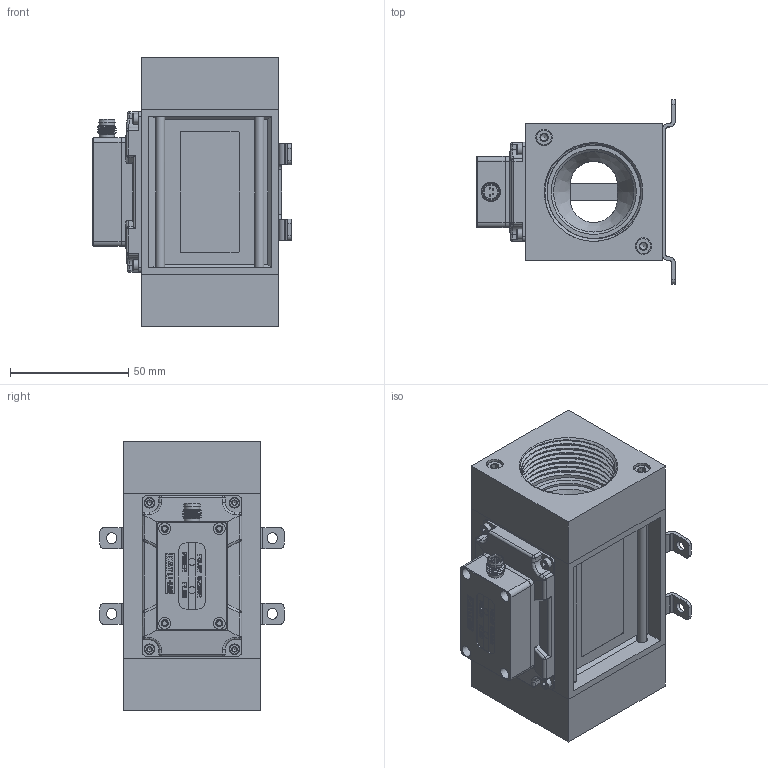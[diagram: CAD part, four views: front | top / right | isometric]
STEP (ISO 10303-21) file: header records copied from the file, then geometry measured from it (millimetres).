
FILE_DESCRIPTION( (''), '2;1');
FILE_NAME( 'QEKJ_250L_R1_M12_bracket_1.step', '2023-06-27T08:46:22+08:00', (''), (''), '', '', '');
FILE_SCHEMA (('AUTOMOTIVE_DESIGN { 1 0 10303 214 3 1 1 1 }'));
Length unit declared in the file: millimetre
Products named in the file (1): QEKJ 250L_R1_M12_bracket_1
Bounding box: 84 x 78 x 114 mm (x, y, z)
Volume: 211219.2 mm3; surface area: 110795.4 mm2
Topology: 18 solids, 18 shells, 1618 faces, 4083 edges, 2608 vertices
Faces by surface type: plane 1016, cylinder 319, cone 127, extrusion 88, torus 40, sphere 16, bspline 12
Full cylindrical faces by diameter (mm): 0.6 x4, 1.6 x4, 2 x3, 2.05 x8, 2.38 x4, 2.8 x4, 3 x6, 3.3 x4, 3.838 x8, 4 x1, 4.5 x20, 5 x8, 5.8 x1, 6.5 x10, 7 x16, 34 x2, 40 x2
Entity records: 53186 total; most frequent: CARTESIAN_POINT 15456, ORIENTED_EDGE 7600, DIRECTION 7416, EDGE_CURVE 3800, VECTOR 2668, LINE 2580, VERTEX_POINT 2547, AXIS2_PLACEMENT_3D 2374
